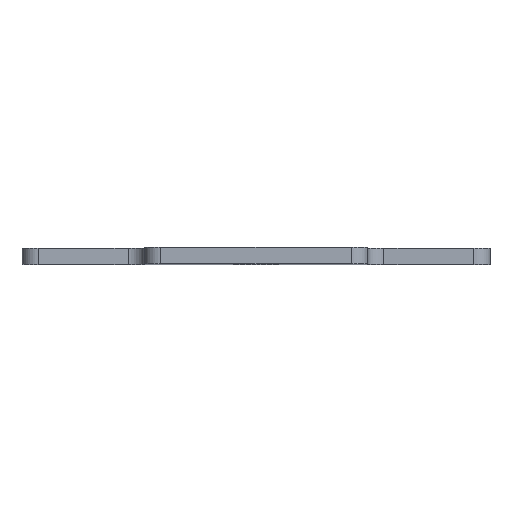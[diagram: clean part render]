
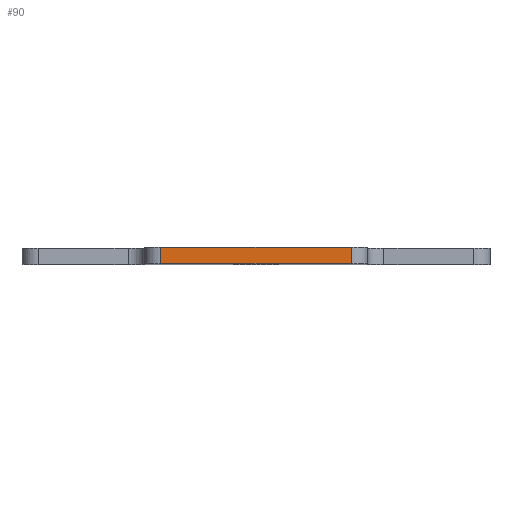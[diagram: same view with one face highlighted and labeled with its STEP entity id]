
A CAD part, top view. The second image highlights one B-rep face of the part: STEP entity #90.
In plain terms, the highlighted planar face has unit normal (0, 0, 1).
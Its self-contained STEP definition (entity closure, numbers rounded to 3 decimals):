
#90 = ADVANCED_FACE ( 'NONE', ( #151 ), #316, .T. ) ;
#151 = FACE_OUTER_BOUND ( 'NONE', #256, .T. ) ;
#167 = EDGE_CURVE ( 'NONE', #941, #206, #538, .T. ) ;
#206 = VERTEX_POINT ( 'NONE', #432 ) ;
#210 = VECTOR ( 'NONE', #707, 1000. ) ;
#238 = DIRECTION ( 'NONE',  ( 1., 0., 0. ) ) ;
#256 = EDGE_LOOP ( 'NONE', ( #644, #814, #601, #539 ) ) ;
#272 = DIRECTION ( 'NONE',  ( 0., 1., 0. ) ) ;
#294 = LINE ( 'NONE', #932, #890 ) ;
#316 = PLANE ( 'NONE',  #375 ) ;
#348 = CARTESIAN_POINT ( 'NONE',  ( -17.5, 3., 110.5 ) ) ;
#375 = AXIS2_PLACEMENT_3D ( 'NONE', #558, #542, #238 ) ;
#383 = LINE ( 'NONE', #665, #641 ) ;
#429 = CARTESIAN_POINT ( 'NONE',  ( -17.5, 0., 110.5 ) ) ;
#432 = CARTESIAN_POINT ( 'NONE',  ( 17.5, 0., 110.5 ) ) ;
#499 = DIRECTION ( 'NONE',  ( 0., 1., 0. ) ) ;
#538 = LINE ( 'NONE', #579, #210 ) ;
#539 = ORIENTED_EDGE ( 'NONE', *, *, #896, .T. ) ;
#542 = DIRECTION ( 'NONE',  ( 0., 0., 1. ) ) ;
#547 = VERTEX_POINT ( 'NONE', #743 ) ;
#558 = CARTESIAN_POINT ( 'NONE',  ( -20.5, 0., 110.5 ) ) ;
#579 = CARTESIAN_POINT ( 'NONE',  ( -20.5, 0., 110.5 ) ) ;
#601 = ORIENTED_EDGE ( 'NONE', *, *, #167, .T. ) ;
#641 = VECTOR ( 'NONE', #877, 1000. ) ;
#644 = ORIENTED_EDGE ( 'NONE', *, *, #847, .F. ) ;
#665 = CARTESIAN_POINT ( 'NONE',  ( -20.5, 3., 110.5 ) ) ;
#680 = VERTEX_POINT ( 'NONE', #348 ) ;
#707 = DIRECTION ( 'NONE',  ( 1., 0., 0. ) ) ;
#714 = EDGE_CURVE ( 'NONE', #941, #680, #926, .T. ) ;
#723 = VECTOR ( 'NONE', #499, 1000. ) ;
#743 = CARTESIAN_POINT ( 'NONE',  ( 17.5, 3., 110.5 ) ) ;
#814 = ORIENTED_EDGE ( 'NONE', *, *, #714, .F. ) ;
#847 = EDGE_CURVE ( 'NONE', #680, #547, #383, .T. ) ;
#877 = DIRECTION ( 'NONE',  ( 1., 0., 0. ) ) ;
#890 = VECTOR ( 'NONE', #272, 1000. ) ;
#896 = EDGE_CURVE ( 'NONE', #206, #547, #294, .T. ) ;
#922 = CARTESIAN_POINT ( 'NONE',  ( -17.5, 0., 110.5 ) ) ;
#926 = LINE ( 'NONE', #922, #723 ) ;
#932 = CARTESIAN_POINT ( 'NONE',  ( 17.5, 0., 110.5 ) ) ;
#941 = VERTEX_POINT ( 'NONE', #429 ) ;
